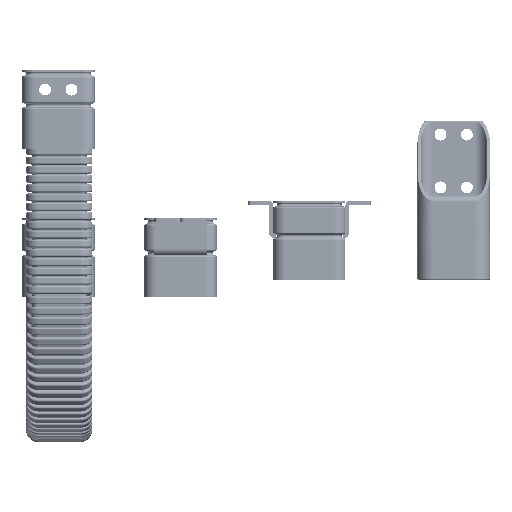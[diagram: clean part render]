
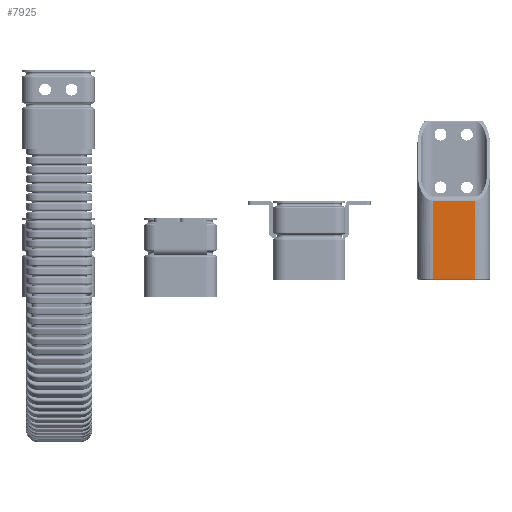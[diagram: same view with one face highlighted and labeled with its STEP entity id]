
A CAD part, top view. The second image highlights one B-rep face of the part: STEP entity #7925.
In plain terms, the highlighted planar face has unit normal (0, 0, 1) as drawn and (0, 1, 0) by its records, which use the part's own axes.
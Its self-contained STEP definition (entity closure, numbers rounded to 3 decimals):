
#7565=CARTESIAN_POINT('',(-41.381,32.5,0.5));
#7566=VERTEX_POINT('',#7565);
#7574=CARTESIAN_POINT('',(-9.381,32.5,0.5));
#7575=VERTEX_POINT('',#7574);
#7576=CARTESIAN_POINT('',(-41.381,32.5,0.5));
#7577=DIRECTION('',(1.0,0.0,0.0));
#7578=VECTOR('',#7577,32.);
#7579=LINE('',#7576,#7578);
#7580=EDGE_CURVE('',#7566,#7575,#7579,.T.);
#7883=CARTESIAN_POINT('',(-9.381,32.5,59.873));
#7884=VERTEX_POINT('',#7883);
#7885=CARTESIAN_POINT('',(-9.381,32.5,0.5));
#7886=DIRECTION('',(0.0,0.0,1.0));
#7887=VECTOR('',#7886,59.373);
#7888=LINE('',#7885,#7887);
#7889=EDGE_CURVE('',#7575,#7884,#7888,.T.);
#7902=CARTESIAN_POINT('',(-41.381,32.5,0.0));
#7903=DIRECTION('',(0.0,1.0,0.0));
#7904=DIRECTION('',(0.0,0.0,1.0));
#7905=AXIS2_PLACEMENT_3D('',#7902,#7903,#7904);
#7906=PLANE('',#7905);
#7907=ORIENTED_EDGE('',*,*,#7580,.F.);
#7908=CARTESIAN_POINT('',(-41.381,32.5,59.873));
#7909=VERTEX_POINT('',#7908);
#7910=CARTESIAN_POINT('',(-41.381,32.5,0.5));
#7911=DIRECTION('',(0.0,0.0,1.0));
#7912=VECTOR('',#7911,59.373);
#7913=LINE('',#7910,#7912);
#7914=EDGE_CURVE('',#7566,#7909,#7913,.T.);
#7915=ORIENTED_EDGE('',*,*,#7914,.T.);
#7916=CARTESIAN_POINT('',(-9.381,32.5,59.873));
#7917=DIRECTION('',(-1.0,0.0,0.0));
#7918=VECTOR('',#7917,32.);
#7919=LINE('',#7916,#7918);
#7920=EDGE_CURVE('',#7884,#7909,#7919,.T.);
#7921=ORIENTED_EDGE('',*,*,#7920,.F.);
#7922=ORIENTED_EDGE('',*,*,#7889,.F.);
#7923=EDGE_LOOP('',(#7907,#7915,#7921,#7922));
#7924=FACE_OUTER_BOUND('',#7923,.T.);
#7925=ADVANCED_FACE('',(#7924),#7906,.T.);
